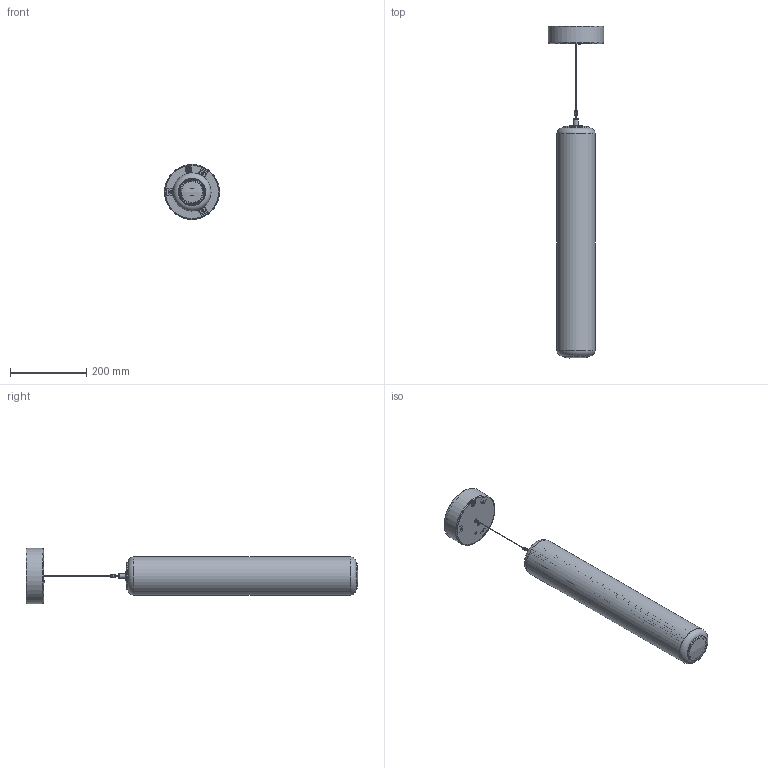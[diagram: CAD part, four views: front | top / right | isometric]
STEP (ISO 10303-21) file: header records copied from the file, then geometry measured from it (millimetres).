
FILE_DESCRIPTION(/* description */ ('VERTICALE 60'),/* implementation_level */ '2;1');
FILE_NAME(/* name */ '00343MP2LD10CEPB - STACKING S 60 V NAKED EMEA - VU MLR.stp',/* time_stamp */ '2026-02-02T16:12:32+01:00',/* author */ ('marco.prandina'),/* organization */ (''),/* preprocessor_version */ 'ST-DEVELOPER v20.1',/* originating_system */ 'Autodesk Inventor 2026',/* authorisation */ '');
FILE_SCHEMA (('AUTOMOTIVE_DESIGN { 1 0 10303 214 3 1 1 }'));
Products named in the file (56): 00343MP2; 00343C502; 00343C406-B; C010; K001; W029-BIA; W031; 00343C395; B006; 00343C397; 00343C404; 00343C398; 00343C407-B; 00343C369; 00343C377; Z0008; W024; K002; GUARN. O RING 2,9X1,78(SILIC.TRASP)SOSP.; VITE TSP M4X6 ZN; 00343C410; VITE TCB M4X8 UNI7687 ZB; VITE AUTOFIL. TCB TORX 4,2X38 ISO14585 ZB; 00499MP0021; 00499C002; 00499C005; A001; Z0013; B014-TRS; RONDELLA PA D10,5 d18 H1,6 DIN 433; B001-NRO; X0001; Z0010; 00499C004-B; 00499C004-01B; PERNO A PRESSIONE M3 H8 TIPO SPECIALINSERT CP08 0 030 12; K015; DADO M3 S2 M.00.06.19 UNI5588 DIN934; K016; K017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
Assembly tree (136 placements, depth 4):
  00343MP2
    00343C502
      00343C406-B
      C010  x55
      K001
      W029-BIA
      W031
    00343C395
    B006
    00343C397
    00343C404
    00343C398
    00343C407-B
    00343C369
    00343C377
    Z0008
    W024
    K002
    GUARN. O RING 2,9X1,78(SILIC.TRASP)SOSP.  x6
    VITE TSP M4X6 ZN
    00343C410
    VITE TCB M4X8 UNI7687 ZB
    VITE AUTOFIL. TCB TORX 4,2X38 ISO14585 ZB  x2
    00499MP0021
      00499C002
      00499C005
      A001
      K004  x8
      Z0013
      B014-TRS
      RONDELLA PA D10,5 d18 H1,6 DIN 433
      B001-NRO
      X0001
      Z0010
      00499C004-B
        00499C004-01B
        PERNO A PRESSIONE M3 H8 TIPO SPECIALINSERT CP08 0 030 12
      W026  x2
      K011  x2
      RONDELLA DENTELLATA ESTERNA M3 UNI8842A  x4
      K015
      DADO M3 S2 M.00.06.19 UNI5588 DIN934
      K016
      W027-BIA  x2
      K017
      VITE TBEI M4X8 ISO 7380 ZB
      VITE TCB M3X6 UNI7687 ZB  x4
      VITE TCB M3X8 UNI7687 ZB
      VITE TSPC M3X6 UNI7688 ZINCATA BIANCA  x3
      VITE TCB M3X16 UNI7687 ZB  x4
      DADO ZINCATO M8X1 H3
      RONDELLA DENTELLATA ESTERNA M8
      Z017-G
      Z017-C
      Z017-E
    00343V005-C-600
Bounding box: 145 x 873.11 x 145 mm (x, y, z)
Volume: 1183998.7 mm3; surface area: 1002620.7 mm2
Topology: 133 solids, 134 shells, 6646 faces, 17320 edges, 11485 vertices
Faces by surface type: plane 4905, cylinder 1215, cone 347, bspline 94, torus 68, sphere 17
Full cylindrical faces by diameter (mm): 0.9 x1, 1.02 x2, 1.25 x1, 1.5 x2, 1.8 x2, 2.459 x20, 2.693 x3, 2.75 x9, 2.8 x3, 2.9 x2, 2.97 x1, 3 x21, 3.2 x4, 3.242 x3, 3.302 x1, 3.5 x20, 3.554 x1, 3.571 x1, 3.65 x1, 3.7 x1, 3.9 x16, 3.95 x1, 4 x5, 4.2 x3, 4.3 x3, 4.5 x5, 5 x5, 5.2 x1, 5.5 x3, 5.8 x1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
Entity records: 92342 total; most frequent: CARTESIAN_POINT 22531, ORIENTED_EDGE 14009, DIRECTION 13477, EDGE_CURVE 7045, AXIS2_PLACEMENT_3D 4671, VERTEX_POINT 4641, LINE 4135, VECTOR 4135
